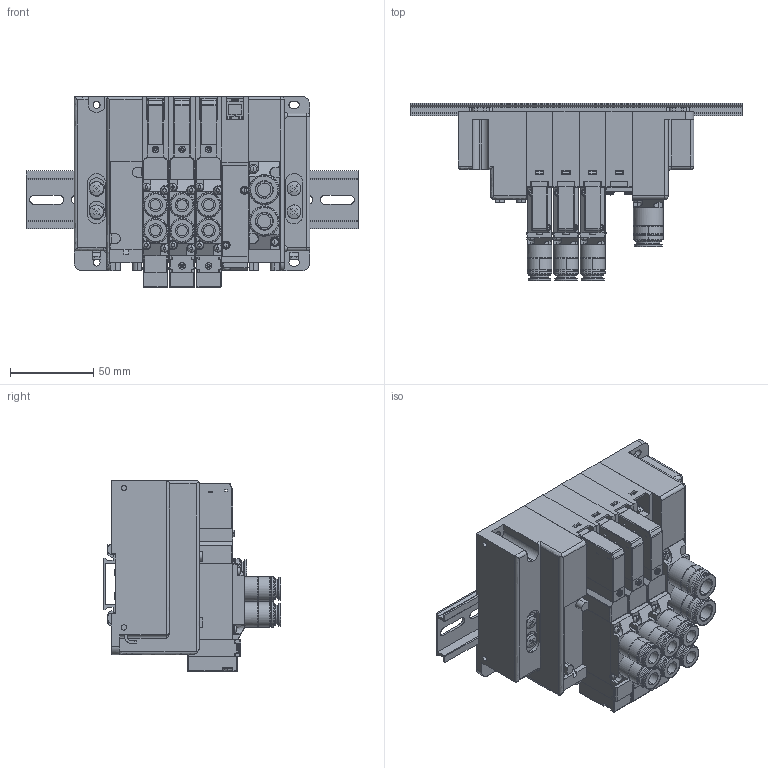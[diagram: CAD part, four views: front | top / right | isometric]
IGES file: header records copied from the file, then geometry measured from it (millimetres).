
Start section: ------------------------------------------------------------------------
Global section: file name: D:\ICADMX\tmp\trans3d_spg\CVICAD02.5220.F15M4XP-JR-F10x-DR_16841.igs; native system: spGate; preprocessor: ver12.6.6; author: Unknown; organization: Unknown; date: 210712.184917; units: millimetre
Bounding box: 200 x 107 x 115 mm (x, y, z)
Volume: 794269.7 mm3; surface area: 212538.7 mm2
Topology: 34 solids, 34 shells, 3261 faces, 8465 edges, 5462 vertices
Faces by surface type: bspline 3261
